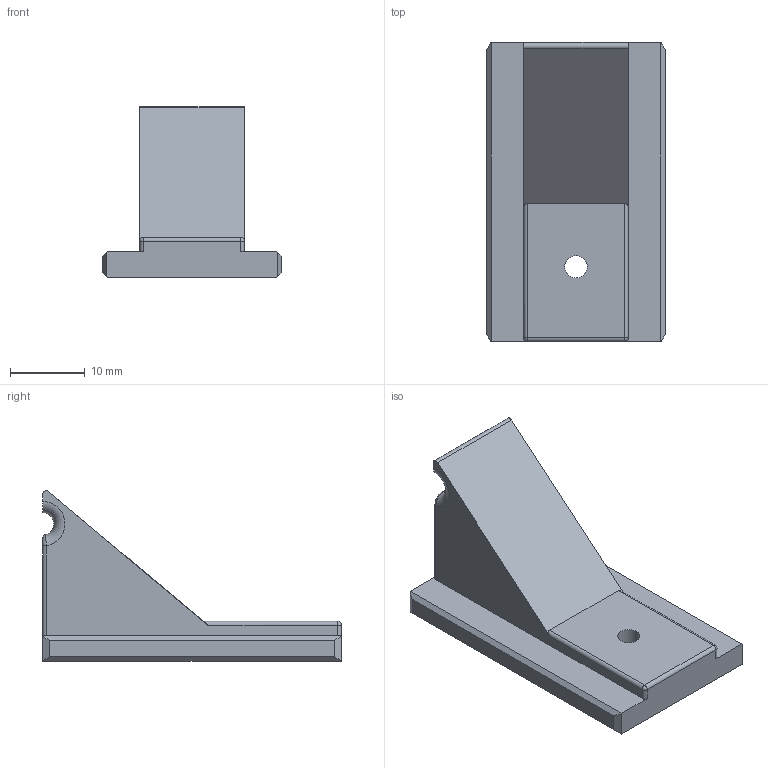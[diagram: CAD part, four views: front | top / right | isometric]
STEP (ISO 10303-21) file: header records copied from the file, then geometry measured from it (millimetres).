
FILE_DESCRIPTION((''),'2;1');
FILE_NAME('NW_01_27_1','2016-10-19T',('Tim'),(''),'CREO PARAMETRIC BY PTC INC, 2015380','CREO PARAMETRIC BY PTC INC, 2015380','');
FILE_SCHEMA(('CONFIG_CONTROL_DESIGN'));
Length unit declared in the file: millimetre
Products named in the file (1): NW_01_27_1
Bounding box: 23.9 x 40 x 22.83 mm (x, y, z)
Volume: 6930 mm3; surface area: 3256.1 mm2
Topology: 1 solids, 1 shells, 40 faces, 106 edges, 68 vertices
Faces by surface type: plane 21, cylinder 13, torus 2, bspline 2, sphere 2
Entity records: 1390 total; most frequent: CARTESIAN_POINT 354, ORIENTED_EDGE 212, DIRECTION 200, EDGE_CURVE 106, VECTOR 72, LINE 72, VERTEX_POINT 68, AXIS2_PLACEMENT_3D 64
